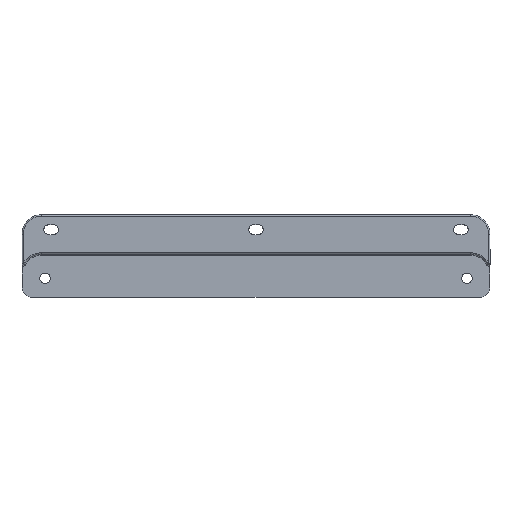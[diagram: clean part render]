
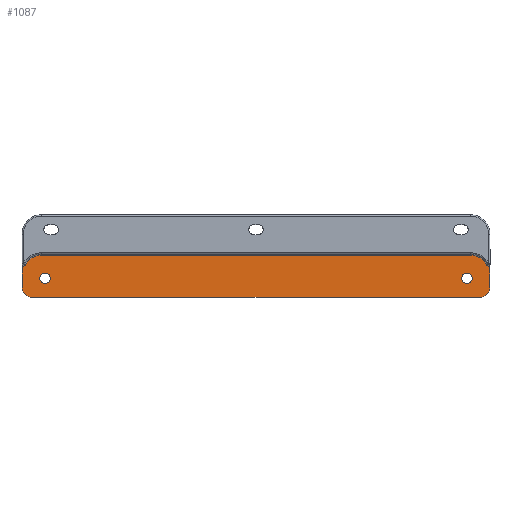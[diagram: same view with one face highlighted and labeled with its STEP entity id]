
A CAD part, top view. The second image highlights one B-rep face of the part: STEP entity #1087.
In plain terms, the highlighted planar face has unit normal (0, 0, 1).
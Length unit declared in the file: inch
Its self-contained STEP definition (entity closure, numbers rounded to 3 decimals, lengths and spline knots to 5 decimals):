
#1 = EDGE_CURVE ( 'NONE', #6, #7, #532, .T. ) ;
#2 = EDGE_CURVE ( 'NONE', #7, #3, #528, .T. ) ;
#3 = VERTEX_POINT ( 'NONE', #523 ) ;
#6 = VERTEX_POINT ( 'NONE', #517 ) ;
#7 = VERTEX_POINT ( 'NONE', #516 ) ;
#8 = ORIENTED_EDGE ( 'NONE', *, *, #2, .T. ) ;
#9 = ORIENTED_EDGE ( 'NONE', *, *, #705, .T. ) ;
#133 = EDGE_CURVE ( 'NONE', #1163, #1166, #754, .T. ) ;
#516 = CARTESIAN_POINT ( 'NONE',  ( 6.032, -0.25084, -0.1 ) ) ;
#517 = CARTESIAN_POINT ( 'NONE',  ( 6.032, -0.8125, -0.1 ) ) ;
#523 = CARTESIAN_POINT ( 'NONE',  ( 5.94243, -0.22567, -0.1 ) ) ;
#524 = DIRECTION ( 'NONE',  ( -1., 0., 0. ) ) ;
#525 = DIRECTION ( 'NONE',  ( 0., 0., -1. ) ) ;
#526 = CARTESIAN_POINT ( 'NONE',  ( 5.9995, -0.19455, -0.1 ) ) ;
#527 = AXIS2_PLACEMENT_3D ( 'NONE', #526, #525, #524 ) ;
#528 = CIRCLE ( 'NONE', #527, 0.065 ) ;
#529 = DIRECTION ( 'NONE',  ( 0., 1., 0. ) ) ;
#530 = VECTOR ( 'NONE', #529, 39.37008 ) ;
#531 = CARTESIAN_POINT ( 'NONE',  ( 6.032, -0.4495, -0.1 ) ) ;
#532 = LINE ( 'NONE', #531, #530 ) ;
#688 = VERTEX_POINT ( 'NONE', #1654 ) ;
#689 = ORIENTED_EDGE ( 'NONE', *, *, #703, .T. ) ;
#697 = ORIENTED_EDGE ( 'NONE', *, *, #698, .T. ) ;
#698 = EDGE_CURVE ( 'NONE', #708, #699, #1746, .T. ) ;
#699 = VERTEX_POINT ( 'NONE', #1742 ) ;
#700 = ORIENTED_EDGE ( 'NONE', *, *, #701, .T. ) ;
#701 = EDGE_CURVE ( 'NONE', #699, #702, #1740, .T. ) ;
#702 = VERTEX_POINT ( 'NONE', #1741 ) ;
#703 = EDGE_CURVE ( 'NONE', #688, #710, #1722, .T. ) ;
#704 = VERTEX_POINT ( 'NONE', #1717 ) ;
#705 = EDGE_CURVE ( 'NONE', #3, #704, #1716, .T. ) ;
#706 = ORIENTED_EDGE ( 'NONE', *, *, #707, .T. ) ;
#707 = EDGE_CURVE ( 'NONE', #704, #708, #1699, .T. ) ;
#708 = VERTEX_POINT ( 'NONE', #1695 ) ;
#710 = VERTEX_POINT ( 'NONE', #1750 ) ;
#715 = ORIENTED_EDGE ( 'NONE', *, *, #1229, .T. ) ;
#716 = ORIENTED_EDGE ( 'NONE', *, *, #717, .F. ) ;
#717 = EDGE_CURVE ( 'NONE', #688, #702, #1853, .T. ) ;
#741 = DIRECTION ( 'NONE',  ( -1., 0., 0. ) ) ;
#742 = DIRECTION ( 'NONE',  ( 0., 0., -1. ) ) ;
#743 = CARTESIAN_POINT ( 'NONE',  ( -5.4375, -0.5745, -0.1 ) ) ;
#744 = AXIS2_PLACEMENT_3D ( 'NONE', #743, #742, #741 ) ;
#754 = CIRCLE ( 'NONE', #744, 0.133 ) ;
#789 = DIRECTION ( 'NONE',  ( 1., 0., 0. ) ) ;
#790 = DIRECTION ( 'NONE',  ( 0., 0., 1. ) ) ;
#791 = CARTESIAN_POINT ( 'NONE',  ( 5.4375, -0.5745, -0.1 ) ) ;
#792 = AXIS2_PLACEMENT_3D ( 'NONE', #791, #790, #789 ) ;
#793 = CIRCLE ( 'NONE', #792, 0.133 ) ;
#824 = CARTESIAN_POINT ( 'NONE',  ( 5.5705, -0.5745, -0.1 ) ) ;
#890 = CARTESIAN_POINT ( 'NONE',  ( -5.3045, -0.5745, -0.1 ) ) ;
#891 = DIRECTION ( 'NONE',  ( -1., 0., 0. ) ) ;
#892 = DIRECTION ( 'NONE',  ( 0., 0., -1. ) ) ;
#893 = CARTESIAN_POINT ( 'NONE',  ( -5.4375, -0.5745, -0.1 ) ) ;
#894 = AXIS2_PLACEMENT_3D ( 'NONE', #893, #892, #891 ) ;
#895 = CIRCLE ( 'NONE', #894, 0.133 ) ;
#896 = CARTESIAN_POINT ( 'NONE',  ( -5.5705, -0.5745, -0.1 ) ) ;
#998 = CARTESIAN_POINT ( 'NONE',  ( 5.782, -1.0625, -0.1 ) ) ;
#999 = DIRECTION ( 'NONE',  ( 1., 0., 0. ) ) ;
#1000 = VECTOR ( 'NONE', #999, 39.37008 ) ;
#1001 = CARTESIAN_POINT ( 'NONE',  ( 6.032, -1.0625, -0.1 ) ) ;
#1002 = LINE ( 'NONE', #1001, #1000 ) ;
#1078 = VERTEX_POINT ( 'NONE', #1809 ) ;
#1087 = ADVANCED_FACE ( 'NONE', ( #1771, #1770, #1769 ), #1768, .F. ) ;
#1088 = EDGE_LOOP ( 'NONE', ( #1089, #8, #9, #706, #697, #700, #716, #689, #715, #1090 ) ) ;
#1089 = ORIENTED_EDGE ( 'NONE', *, *, #1, .T. ) ;
#1090 = ORIENTED_EDGE ( 'NONE', *, *, #1091, .T. ) ;
#1091 = EDGE_CURVE ( 'NONE', #1230, #6, #1876, .T. ) ;
#1092 = EDGE_LOOP ( 'NONE', ( #1093, #1095 ) ) ;
#1093 = ORIENTED_EDGE ( 'NONE', *, *, #1094, .F. ) ;
#1094 = EDGE_CURVE ( 'NONE', #1135, #1078, #1884, .T. ) ;
#1095 = ORIENTED_EDGE ( 'NONE', *, *, #1123, .F. ) ;
#1096 = EDGE_LOOP ( 'NONE', ( #1097, #1098 ) ) ;
#1097 = ORIENTED_EDGE ( 'NONE', *, *, #1165, .T. ) ;
#1098 = ORIENTED_EDGE ( 'NONE', *, *, #133, .T. ) ;
#1123 = EDGE_CURVE ( 'NONE', #1078, #1135, #793, .T. ) ;
#1135 = VERTEX_POINT ( 'NONE', #824 ) ;
#1163 = VERTEX_POINT ( 'NONE', #896 ) ;
#1165 = EDGE_CURVE ( 'NONE', #1166, #1163, #895, .T. ) ;
#1166 = VERTEX_POINT ( 'NONE', #890 ) ;
#1229 = EDGE_CURVE ( 'NONE', #710, #1230, #1002, .T. ) ;
#1230 = VERTEX_POINT ( 'NONE', #998 ) ;
#1649 = CARTESIAN_POINT ( 'NONE',  ( -5.532, -0.4495, -0.1 ) ) ;
#1654 = CARTESIAN_POINT ( 'NONE',  ( -6.032, -0.8125, -0.1 ) ) ;
#1695 = CARTESIAN_POINT ( 'NONE',  ( -5.532, 0.018, -0.1 ) ) ;
#1696 = DIRECTION ( 'NONE',  ( -1., 0., 0. ) ) ;
#1697 = VECTOR ( 'NONE', #1696, 39.37008 ) ;
#1698 = CARTESIAN_POINT ( 'NONE',  ( -5.532, 0.018, -0.1 ) ) ;
#1699 = LINE ( 'NONE', #1698, #1697 ) ;
#1700 = DIRECTION ( 'NONE',  ( -1., 0., 0. ) ) ;
#1701 = DIRECTION ( 'NONE',  ( 0., 0., 1. ) ) ;
#1702 = CARTESIAN_POINT ( 'NONE',  ( 5.532, -0.4495, -0.1 ) ) ;
#1703 = AXIS2_PLACEMENT_3D ( 'NONE', #1702, #1701, #1700 ) ;
#1716 = CIRCLE ( 'NONE', #1703, 0.4675 ) ;
#1717 = CARTESIAN_POINT ( 'NONE',  ( 5.532, 0.018, -0.1 ) ) ;
#1718 = DIRECTION ( 'NONE',  ( -1., 0., 0. ) ) ;
#1719 = DIRECTION ( 'NONE',  ( 0., 0., 1. ) ) ;
#1720 = CARTESIAN_POINT ( 'NONE',  ( -5.782, -0.8125, -0.1 ) ) ;
#1721 = AXIS2_PLACEMENT_3D ( 'NONE', #1720, #1719, #1718 ) ;
#1722 = CIRCLE ( 'NONE', #1721, 0.25 ) ;
#1736 = DIRECTION ( 'NONE',  ( -1., 0., 0. ) ) ;
#1737 = DIRECTION ( 'NONE',  ( 0., 0., -1. ) ) ;
#1738 = CARTESIAN_POINT ( 'NONE',  ( -5.9995, -0.19455, -0.1 ) ) ;
#1739 = AXIS2_PLACEMENT_3D ( 'NONE', #1738, #1737, #1736 ) ;
#1740 = CIRCLE ( 'NONE', #1739, 0.065 ) ;
#1741 = CARTESIAN_POINT ( 'NONE',  ( -6.032, -0.25084, -0.1 ) ) ;
#1742 = CARTESIAN_POINT ( 'NONE',  ( -5.94243, -0.22567, -0.1 ) ) ;
#1743 = DIRECTION ( 'NONE',  ( -1., 0., 0. ) ) ;
#1744 = DIRECTION ( 'NONE',  ( 0., 0., 1. ) ) ;
#1745 = AXIS2_PLACEMENT_3D ( 'NONE', #1649, #1744, #1743 ) ;
#1746 = CIRCLE ( 'NONE', #1745, 0.4675 ) ;
#1750 = CARTESIAN_POINT ( 'NONE',  ( -5.782, -1.0625, -0.1 ) ) ;
#1764 = DIRECTION ( 'NONE',  ( -1., 0., 0. ) ) ;
#1765 = DIRECTION ( 'NONE',  ( 0., 0., -1. ) ) ;
#1766 = CARTESIAN_POINT ( 'NONE',  ( 5.532, -0.4495, -0.1 ) ) ;
#1767 = AXIS2_PLACEMENT_3D ( 'NONE', #1766, #1765, #1764 ) ;
#1768 = PLANE ( 'NONE',  #1767 ) ;
#1769 = FACE_BOUND ( 'NONE', #1096, .T. ) ;
#1770 = FACE_BOUND ( 'NONE', #1092, .T. ) ;
#1771 = FACE_OUTER_BOUND ( 'NONE', #1088, .T. ) ;
#1809 = CARTESIAN_POINT ( 'NONE',  ( 5.3045, -0.5745, -0.1 ) ) ;
#1827 = CARTESIAN_POINT ( 'NONE',  ( -6.032, -0.4495, -0.1 ) ) ;
#1853 = LINE ( 'NONE', #1827, #1857 ) ;
#1856 = DIRECTION ( 'NONE',  ( 0., 1., 0. ) ) ;
#1857 = VECTOR ( 'NONE', #1856, 39.37008 ) ;
#1871 = AXIS2_PLACEMENT_3D ( 'NONE', #1885, #1895, #1874 ) ;
#1873 = AXIS2_PLACEMENT_3D ( 'NONE', #1881, #1880, #1878 ) ;
#1874 = DIRECTION ( 'NONE',  ( -1., 0., 0. ) ) ;
#1876 = CIRCLE ( 'NONE', #1871, 0.25 ) ;
#1878 = DIRECTION ( 'NONE',  ( 1., 0., 0. ) ) ;
#1880 = DIRECTION ( 'NONE',  ( 0., 0., 1. ) ) ;
#1881 = CARTESIAN_POINT ( 'NONE',  ( 5.4375, -0.5745, -0.1 ) ) ;
#1884 = CIRCLE ( 'NONE', #1873, 0.133 ) ;
#1885 = CARTESIAN_POINT ( 'NONE',  ( 5.782, -0.8125, -0.1 ) ) ;
#1895 = DIRECTION ( 'NONE',  ( 0., 0., 1. ) ) ;
